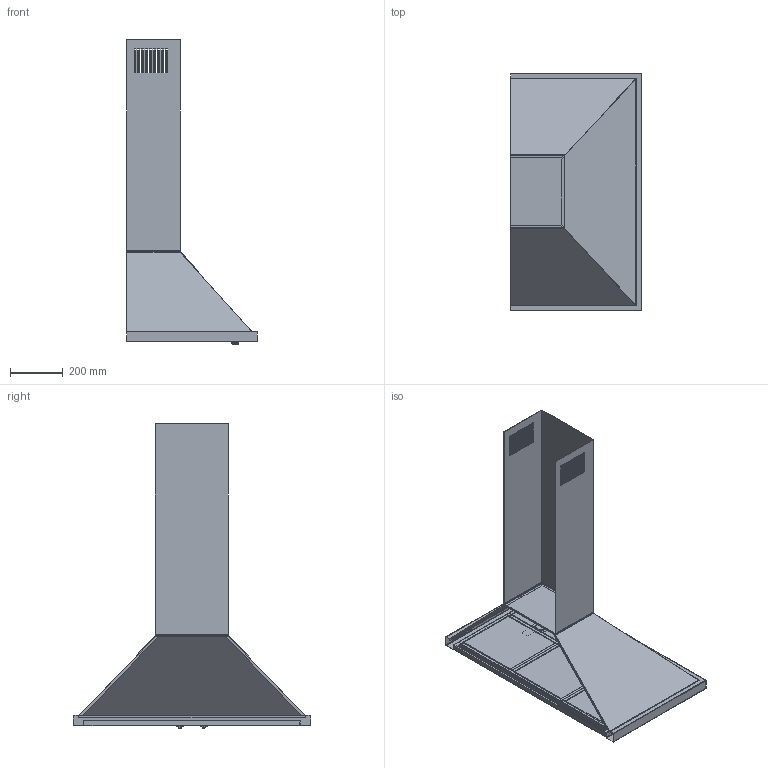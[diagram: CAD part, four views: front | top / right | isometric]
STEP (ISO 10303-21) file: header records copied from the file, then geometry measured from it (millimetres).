
FILE_DESCRIPTION(('CATIA V5 STEP Exchange'),'2;1');
FILE_NAME('\\sr02\Apell\Disegni\DISEGNI\SMEG\CAPPE\KPF9AN\Assiemi\BIM\KPF9AN.stp','2018-02-16T15:15:24+00:00',('none'),('none'),'CATIA Version 5-6 Release 2014','CATIA V5 STEP AP203','none');
FILE_SCHEMA(('CONFIG_CONTROL_DESIGN'));
Length unit declared in the file: millimetre
Products named in the file (1): KPF9
Bounding box: 494.5 x 895.5 x 1149.93 mm (x, y, z)
Volume: 1996279.7 mm3; surface area: 3689110.1 mm2
Topology: 22 solids, 22 shells, 504 faces, 1247 edges, 804 vertices
Faces by surface type: plane 394, cylinder 102, cone 8
Entity records: 14327 total; most frequent: CARTESIAN_POINT 3171, ORIENTED_EDGE 2494, DIRECTION 1800, EDGE_CURVE 1247, VECTOR 908, LINE 908, VERTEX_POINT 804, EDGE_LOOP 585
